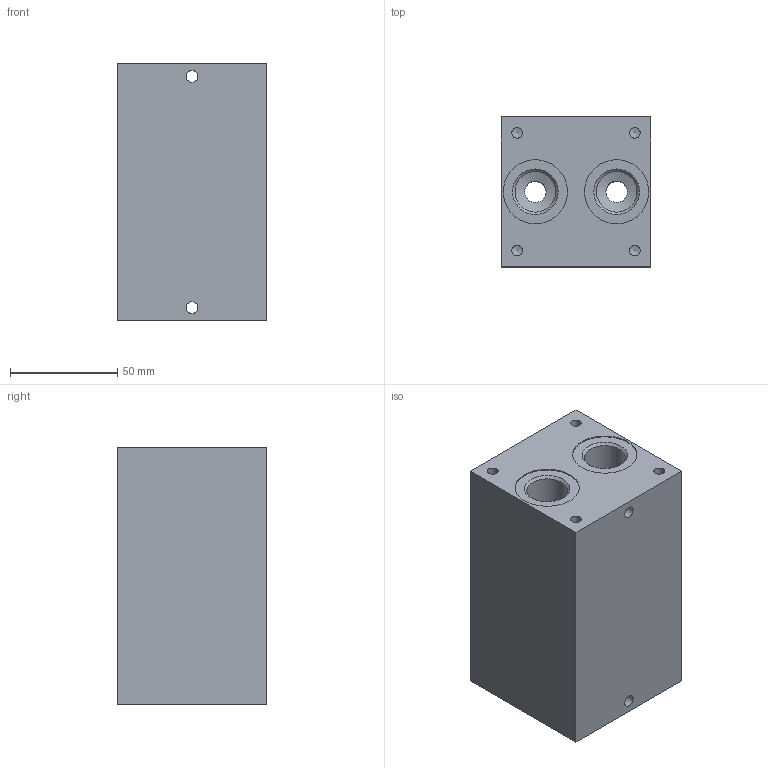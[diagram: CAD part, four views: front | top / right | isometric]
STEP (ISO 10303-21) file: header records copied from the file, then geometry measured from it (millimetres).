
FILE_DESCRIPTION (( 'STEP AP214' ), '1' );
FILE_NAME ('BM2A.STEP', '2021-01-04T08:01:36', ( '' ), ( '' ), 'SwSTEP 2.0', 'SolidWorks 2020', '' );
FILE_SCHEMA (( 'AUTOMOTIVE_DESIGN' ));
Length unit declared in the file: millimetre
Products named in the file (2): 62200118; BM2A
Assembly tree (1 placements, depth 2):
  BM2A
    62200118
Bounding box: 70 x 70 x 120 mm (x, y, z)
Volume: 517794.5 mm3; surface area: 68502.4 mm2
Topology: 1 solids, 1 shells, 102 faces, 242 edges, 148 vertices
Faces by surface type: cylinder 50, cone 36, plane 16
Full cylindrical faces by diameter (mm): 4.2 x8, 5 x8, 5.5 x2, 6 x8, 7 x4, 9 x2, 10 x2, 15.25 x4, 19 x4, 25 x4, 30 x4
Entity records: 3676 total; most frequent: CARTESIAN_POINT 890, DIRECTION 416, ORIENTED_EDGE 240, EDGE_LOOP 222, AXIS2_PLACEMENT_3D 202, FACE_OUTER_BOUND 152, EDGE_CURVE 120, VERTEX_POINT 116
